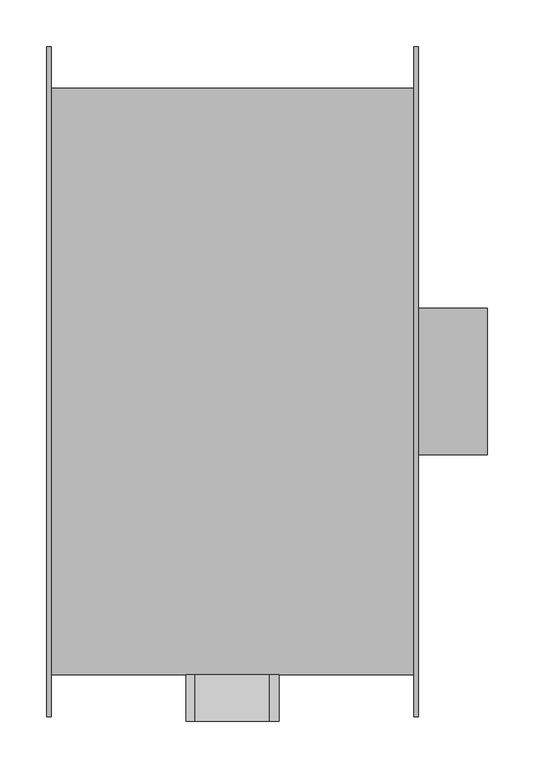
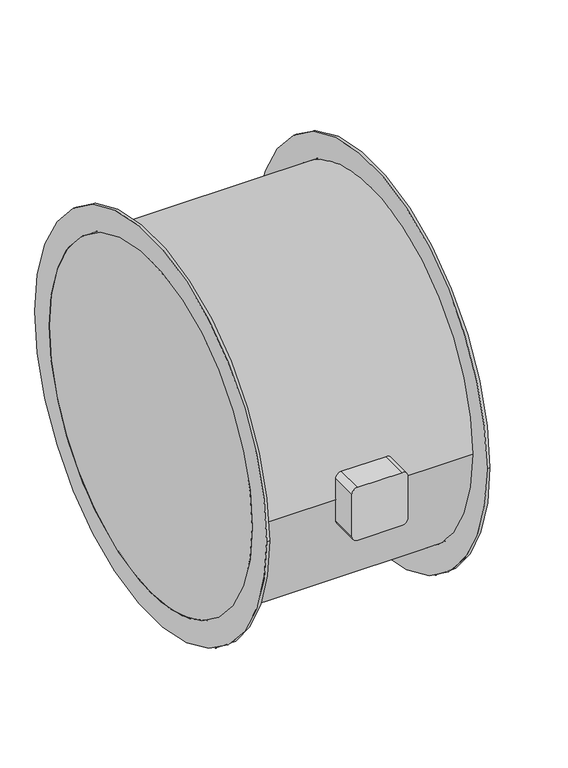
"""IFC4 building model written with IfcOpenShell, lengths in millimetres: unitary equipment geometry, VE-Wentylator-ParaForma-Harmann-AXER-Nawiewny : 630/4/17200T."""

from ifc_helpers import new_model, si_unit, point, frame, frame_2d, origin, origin_2d, place, context, project, spatial, polyline, circle_curve, trimmed, segment, composite_curve, outline, extrude, source, transform, mapped, element, save


def unitary_equipment_a1bf6dc9(model_context):
    return source(origin(), model_context, "Body", "SweptSolid", [
        extrude(outline(composite_curve([segment(trimmed(circle_curve(origin_2d(), 78.75), [point((-78.75, 0.0))], [point((78.75, 0.0))], False, "CARTESIAN"), True, "CONTINUOUS"), segment(trimmed(circle_curve(origin_2d(), 78.75), [point((78.75, 0.0))], [point((-78.75, 0.0))], False, "CARTESIAN"), True, "CONTINUOUS")], self_intersect=False)), frame((200.0, 0.0, 0.0), z_axis=(1.0, 0.0, 0.0), x_axis=(0.0, 1.0, 0.0)), (0.0, 0.0, 1.0), 74.0),
        extrude(outline(composite_curve([segment(trimmed(circle_curve(frame_2d((-40.0, 40.0)), 10.0), [point((-50.0, 40.0))], [point((-40.0, 50.0))], False, "CARTESIAN"), True, "CONTINUOUS"), segment(polyline([(-40.0, 50.0), (40.0, 50.0)]), True, "CONTINUOUS"), segment(trimmed(circle_curve(frame_2d((40.0, 40.0)), 10.0), [point((40.0, 50.0))], [point((50.0, 40.0))], False, "CARTESIAN"), True, "CONTINUOUS"), segment(polyline([(50.0, 40.0), (50.0, -40.0)]), True, "CONTINUOUS"), segment(trimmed(circle_curve(frame_2d((40.0, -40.0)), 10.0), [point((50.0, -40.0))], [point((40.0, -50.0))], False, "CARTESIAN"), True, "CONTINUOUS"), segment(polyline([(40.0, -50.0), (-40.0, -50.0)]), True, "CONTINUOUS"), segment(trimmed(circle_curve(frame_2d((-40.0, -40.0)), 10.0), [point((-40.0, -50.0))], [point((-50.0, -40.0))], False, "CARTESIAN"), True, "CONTINUOUS"), segment(polyline([(-50.0, -40.0), (-50.0, 40.0)]), True, "CONTINUOUS")], self_intersect=False)), frame((0.0, -365.0, 0.0), z_axis=(0.0, 1.0, 0.0), x_axis=(0.0, 0.0, 1.0)), (0.0, 0.0, 1.0), 50.0),
        extrude(outline(composite_curve([segment(trimmed(circle_curve(origin_2d(), 360.0), [point((-360.0, 0.0))], [point((360.0, 0.0))], False, "CARTESIAN"), True, "CONTINUOUS"), segment(trimmed(circle_curve(origin_2d(), 360.0), [point((360.0, 0.0))], [point((-360.0, 0.0))], False, "CARTESIAN"), True, "CONTINUOUS")], self_intersect=False), holes=[composite_curve([segment(trimmed(circle_curve(origin_2d(), 315.0), [point((-315.0, 0.0))], [point((315.0, 0.0))], True, "CARTESIAN"), True, "CONTINUOUS"), segment(trimmed(circle_curve(origin_2d(), 315.0), [point((315.0, 0.0))], [point((-315.0, 0.0))], True, "CARTESIAN"), True, "CONTINUOUS")], self_intersect=False)]), frame((195.0, 0.0, 0.0), z_axis=(1.0, 0.0, 0.0), x_axis=(0.0, 1.0, 0.0)), (0.0, 0.0, 1.0), 5.0),
        extrude(outline(composite_curve([segment(trimmed(circle_curve(origin_2d(), 360.0), [point((-360.0, 0.0))], [point((360.0, 0.0))], False, "CARTESIAN"), True, "CONTINUOUS"), segment(trimmed(circle_curve(origin_2d(), 360.0), [point((360.0, 0.0))], [point((-360.0, 0.0))], False, "CARTESIAN"), True, "CONTINUOUS")], self_intersect=False), holes=[composite_curve([segment(trimmed(circle_curve(origin_2d(), 315.0), [point((-315.0, 0.0))], [point((315.0, 0.0))], True, "CARTESIAN"), True, "CONTINUOUS"), segment(trimmed(circle_curve(origin_2d(), 315.0), [point((315.0, 0.0))], [point((-315.0, 0.0))], True, "CARTESIAN"), True, "CONTINUOUS")], self_intersect=False)]), frame((-200.0, 0.0, 0.0), z_axis=(1.0, 0.0, 0.0), x_axis=(0.0, 1.0, 0.0)), (0.0, 0.0, 1.0), 5.0),
        extrude(outline(composite_curve([segment(trimmed(circle_curve(origin_2d(), 315.0), [point((-315.0, 0.0))], [point((315.0, 0.0))], False, "CARTESIAN"), True, "CONTINUOUS"), segment(trimmed(circle_curve(origin_2d(), 315.0), [point((315.0, 0.0))], [point((-315.0, 0.0))], False, "CARTESIAN"), True, "CONTINUOUS")], self_intersect=False)), frame((-200.0, 0.0, 0.0), z_axis=(1.0, 0.0, 0.0), x_axis=(0.0, 1.0, 0.0)), (0.0, 0.0, 1.0), 400.0),
    ])


if __name__ == "__main__":
    model = new_model("IFC4")
    model_context = context("Model", 3, world=origin())
    ifc_project = project(units=[si_unit("LENGTHUNIT", "METRE", prefix="MILLI")], contexts=[model_context])
    site = spatial("IfcSite", under=ifc_project)
    building = spatial("IfcBuilding", under=site)
    placement = place(None, origin())
    unitary_equipment_shape = unitary_equipment_a1bf6dc9(model_context)
    element("IfcUnitaryEquipment", 1, ObjectType="VE-Wentylator-ParaForma-Harmann-AXER-Nawiewny : 630/4/17200T", at=placement, inside=building, context=model_context, shape_type="MappedRepresentation", body=[
        mapped(unitary_equipment_shape, transform((0.0, 0.0, 0.0), x_axis=(1.0, 0.0, 0.0), y_axis=(0.0, 1.0, 0.0), z_axis=(0.0, 0.0, 1.0))),
    ])
    save(model, "model.ifc")
